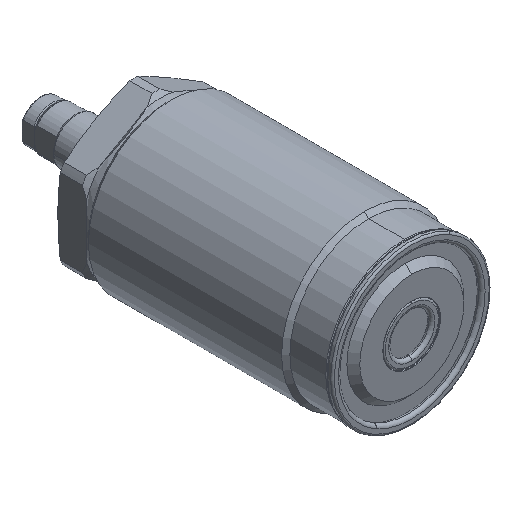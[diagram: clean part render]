
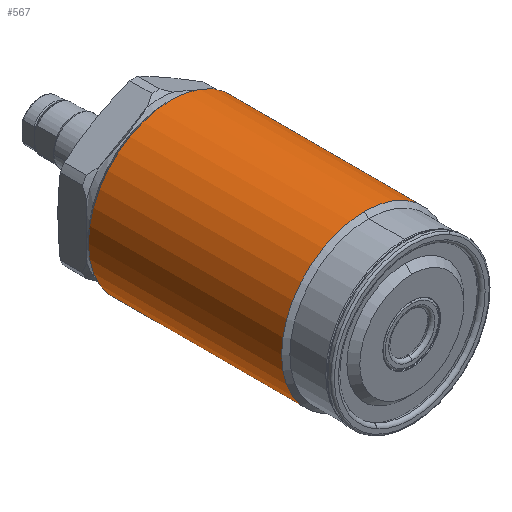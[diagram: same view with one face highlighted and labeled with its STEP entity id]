
A CAD part, isometric view. The second image highlights one B-rep face of the part: STEP entity #567.
In plain terms, the highlighted cylindrical face has radius 18 mm (diameter 36 mm), a full revolution.
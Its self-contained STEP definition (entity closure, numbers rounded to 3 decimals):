
#266=FACE_BOUND('',#864,.T.);
#267=FACE_BOUND('',#865,.T.);
#313=CYLINDRICAL_SURFACE('',#2368,18.);
#378=LINE('',#3811,#456);
#379=LINE('',#3816,#457);
#456=VECTOR('',#2955,1.);
#457=VECTOR('',#2958,1.);
#567=ADVANCED_FACE('',(#266,#267),#313,.T.);
#864=EDGE_LOOP('',(#1298));
#865=EDGE_LOOP('',(#1299,#1300,#1301,#1302,#1303,#1304));
#1298=ORIENTED_EDGE('',*,*,#1889,.T.);
#1299=ORIENTED_EDGE('',*,*,#1890,.T.);
#1300=ORIENTED_EDGE('',*,*,#1890,.F.);
#1301=ORIENTED_EDGE('',*,*,#1891,.T.);
#1302=ORIENTED_EDGE('',*,*,#1892,.T.);
#1303=ORIENTED_EDGE('',*,*,#1892,.F.);
#1304=ORIENTED_EDGE('',*,*,#1893,.T.);
#1639=VERTEX_POINT('',#3810);
#1640=VERTEX_POINT('',#3812);
#1641=VERTEX_POINT('',#3813);
#1642=VERTEX_POINT('',#3815);
#1643=VERTEX_POINT('',#3817);
#1889=EDGE_CURVE('',#1639,#1639,#2102,.T.);
#1890=EDGE_CURVE('',#1640,#1641,#378,.T.);
#1891=EDGE_CURVE('',#1640,#1642,#2103,.T.);
#1892=EDGE_CURVE('',#1642,#1643,#379,.T.);
#1893=EDGE_CURVE('',#1642,#1640,#2104,.T.);
#2102=CIRCLE('',#2365,18.);
#2103=CIRCLE('',#2366,18.);
#2104=CIRCLE('',#2367,18.);
#2365=AXIS2_PLACEMENT_3D('',#3809,#2953,#2954);
#2366=AXIS2_PLACEMENT_3D('',#3814,#2956,#2957);
#2367=AXIS2_PLACEMENT_3D('',#3818,#2959,#2960);
#2368=AXIS2_PLACEMENT_3D('',#3819,#2961,#2962);
#2953=DIRECTION('',(0.,-1.,0.));
#2954=DIRECTION('',(0.,0.,1.));
#2955=DIRECTION('',(0.,1.,0.));
#2956=DIRECTION('',(0.,1.,0.));
#2957=DIRECTION('',(0.,0.,1.));
#2958=DIRECTION('',(0.,1.,0.));
#2959=DIRECTION('',(0.,1.,0.));
#2960=DIRECTION('',(0.,0.,1.));
#2961=DIRECTION('',(0.,1.,0.));
#2962=DIRECTION('',(0.,0.,-1.));
#3809=CARTESIAN_POINT('',(0.,52.3,0.));
#3810=CARTESIAN_POINT('',(0.,52.3,18.));
#3811=CARTESIAN_POINT('',(0.,64.3,18.));
#3812=CARTESIAN_POINT('',(0.,10.3,18.));
#3813=CARTESIAN_POINT('',(0.,48.881,18.));
#3814=CARTESIAN_POINT('',(0.,10.3,0.));
#3815=CARTESIAN_POINT('',(0.,10.3,-18.));
#3816=CARTESIAN_POINT('',(0.,64.3,-18.));
#3817=CARTESIAN_POINT('',(0.,48.881,-18.));
#3818=CARTESIAN_POINT('',(0.,10.3,0.));
#3819=CARTESIAN_POINT('',(0.,64.3,0.));
